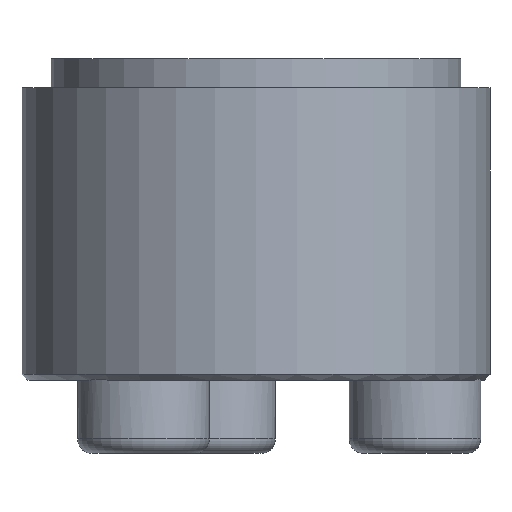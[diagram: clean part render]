
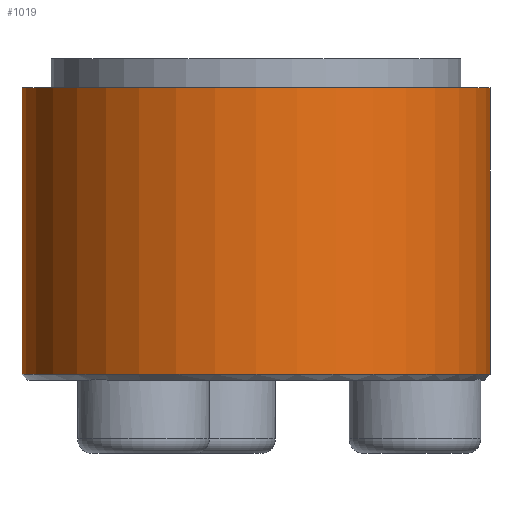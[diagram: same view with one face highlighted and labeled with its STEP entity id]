
A CAD part, front view. The second image highlights one B-rep face of the part: STEP entity #1019.
In plain terms, the highlighted cylindrical face has radius 8 mm (diameter 16 mm), a partial arc.
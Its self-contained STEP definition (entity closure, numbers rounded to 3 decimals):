
#36 = AXIS2_PLACEMENT_3D ( 'NONE', #219, #463, #1339 ) ;
#38 = VERTEX_POINT ( 'NONE', #1371 ) ;
#55 = EDGE_LOOP ( 'NONE', ( #1349, #1202, #175, #765 ) ) ;
#90 = VECTOR ( 'NONE', #1233, 1000. ) ;
#175 = ORIENTED_EDGE ( 'NONE', *, *, #631, .T. ) ;
#178 = CARTESIAN_POINT ( 'NONE',  ( -8., 0., -5.3 ) ) ;
#186 = DIRECTION ( 'NONE',  ( 0., 0., 1. ) ) ;
#219 = CARTESIAN_POINT ( 'NONE',  ( 0., 0., 0. ) ) ;
#254 = CARTESIAN_POINT ( 'NONE',  ( -8., 0., 4.5 ) ) ;
#259 = CARTESIAN_POINT ( 'NONE',  ( 0., 0., 4.5 ) ) ;
#283 = LINE ( 'NONE', #873, #90 ) ;
#371 = VERTEX_POINT ( 'NONE', #178 ) ;
#463 = DIRECTION ( 'NONE',  ( 0., 0., -1. ) ) ;
#482 = CIRCLE ( 'NONE', #1512, 8. ) ;
#515 = EDGE_CURVE ( 'NONE', #371, #38, #1164, .T. ) ;
#586 = CARTESIAN_POINT ( 'NONE',  ( 0., 0., -5.3 ) ) ;
#631 = EDGE_CURVE ( 'NONE', #678, #371, #283, .T. ) ;
#678 = VERTEX_POINT ( 'NONE', #254 ) ;
#730 = EDGE_CURVE ( 'NONE', #1065, #678, #482, .T. ) ;
#734 = CARTESIAN_POINT ( 'NONE',  ( 8., 0., 0. ) ) ;
#765 = ORIENTED_EDGE ( 'NONE', *, *, #515, .T. ) ;
#867 = FACE_OUTER_BOUND ( 'NONE', #55, .T. ) ;
#873 = CARTESIAN_POINT ( 'NONE',  ( -8., 0., 0. ) ) ;
#875 = AXIS2_PLACEMENT_3D ( 'NONE', #586, #186, #1075 ) ;
#989 = DIRECTION ( 'NONE',  ( 0., 0., -1. ) ) ;
#1019 = ADVANCED_FACE ( 'NONE', ( #867 ), #1082, .T. ) ;
#1065 = VERTEX_POINT ( 'NONE', #1605 ) ;
#1075 = DIRECTION ( 'NONE',  ( -1., 0., 0. ) ) ;
#1082 = CYLINDRICAL_SURFACE ( 'NONE', #36, 8. ) ;
#1095 = EDGE_CURVE ( 'NONE', #1065, #38, #1423, .T. ) ;
#1164 = CIRCLE ( 'NONE', #875, 8. ) ;
#1202 = ORIENTED_EDGE ( 'NONE', *, *, #730, .T. ) ;
#1233 = DIRECTION ( 'NONE',  ( 0., 0., -1. ) ) ;
#1268 = DIRECTION ( 'NONE',  ( 0., 0., -1. ) ) ;
#1339 = DIRECTION ( 'NONE',  ( -1., 0., 0. ) ) ;
#1349 = ORIENTED_EDGE ( 'NONE', *, *, #1095, .F. ) ;
#1371 = CARTESIAN_POINT ( 'NONE',  ( 8., 0., -5.3 ) ) ;
#1423 = LINE ( 'NONE', #734, #1633 ) ;
#1512 = AXIS2_PLACEMENT_3D ( 'NONE', #259, #1268, #1531 ) ;
#1531 = DIRECTION ( 'NONE',  ( 1., 0., 0. ) ) ;
#1605 = CARTESIAN_POINT ( 'NONE',  ( 8., 0., 4.5 ) ) ;
#1633 = VECTOR ( 'NONE', #989, 1000. ) ;
